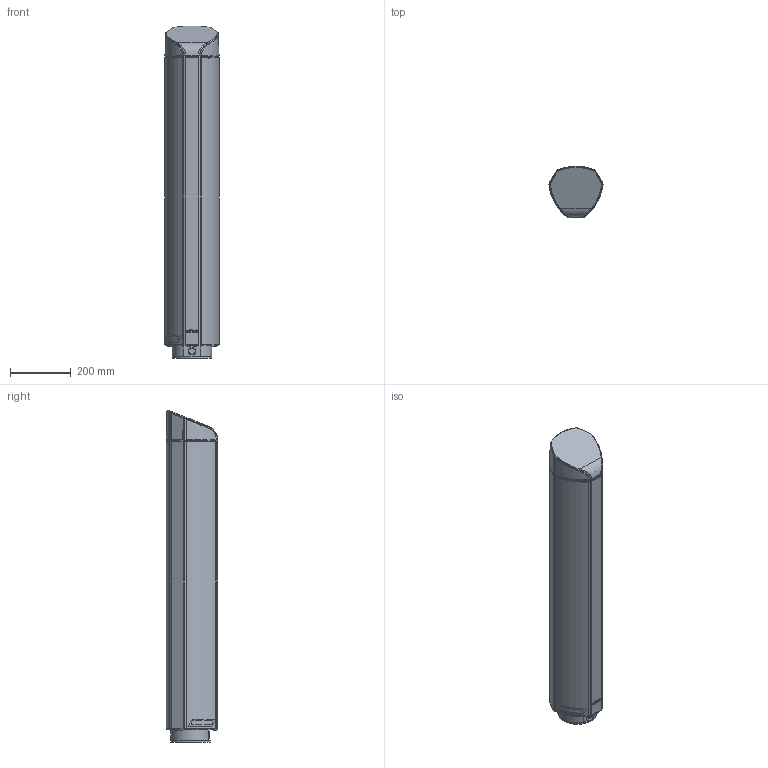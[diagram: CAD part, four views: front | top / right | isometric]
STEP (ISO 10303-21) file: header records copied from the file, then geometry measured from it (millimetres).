
FILE_DESCRIPTION(/* description */ ('Unknown'),/* implementation_level */ '2;1');
FILE_NAME(/* name */ '55870013_00',/* time_stamp */ '2023-03-13T11:10:37+01:00',/* author */ ('Unknown'),/* organization */ ('Unknown'),/* preprocessor_version */ 'ST-DEVELOPER v18.102',/* originating_system */ 'Solid Edge',/* authorisation */ 'Unknown');
FILE_SCHEMA (('AUTOMOTIVE_DESIGN {1 0 10303 214 3 1 1}'));
Products named in the file (48): 55870013; 10430647_oa_0; 35050007; 34840049; 20770007; 20180333; 20180333a; 20180333b; 34635030; 20410114; 20340394; 20580040; 35760048; 35160004; 34980004; 32220003; 35130011; 35165008; 20580038; 33305008; 20580039; 34745019; 20250074; 20250075; 20250118; 10450304; 20490306; 20250112; 20640126; 35000013; 20180574; 20370070; 33020022; 20180434-mSwing; 20180434-MAGNETIC-mSwing-1; 20180434-MAGNETIC-mSwing-2; 34900015; 20340465; 20580043; 35165002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
Assembly tree (107 placements, depth 4):
  55870013
    10430647_oa_0
      35050007  x2
      34840049  x4
      20770007  x2
      20180333
        20180333a
        20180333b
      34635030  x6
      20410114
      20340394
      20580040
      35760048
      35160004
      34980004  x2
      32220003
      35130011
      35165008  x4
      20580038  x3
      33305008  x4
      20580039  x3
      34745019
      20250074
      20250075
      20250118
    10450304
      20490306
      34980004  x2
      34745019  x7
      20250112
      20640126
      35000013  x3
      20180574
      20180333
        20180333a
        20180333b
      20370070  x2
      35050007  x2
      32220003
      33020022  x2
      20180434-mSwing
        20180434-MAGNETIC-mSwing-1
        20180434-MAGNETIC-mSwing-2
      34900015  x6
      20340465
      35130011
      20580043
      35160004
    35165002  x4
    31380045  x4
    33060023  x8
    10330029
      20690127
      20250130
      34630039  x3
      34590021
    20400450
Bounding box: 177.66 x 168.2 x 1091.22 mm (x, y, z)
Volume: 4524871.1 mm3; surface area: 1913333.8 mm2
Topology: 111 solids, 111 shells, 3964 faces, 10493 edges, 6755 vertices
Faces by surface type: plane 2212, cylinder 1091, bspline 370, cone 224, torus 40, sphere 27
Full cylindrical faces by diameter (mm): 2 x2, 2.5 x5, 3.242 x22, 4 x19, 4.2 x9, 4.3 x7, 4.4 x2, 4.5 x11, 4.773 x10, 4.917 x38, 5 x1, 5.5 x3, 6 x28, 6.5 x41, 6.6 x12, 6.647 x12, 7 x8, 8 x16, 8.4 x3, 8.7 x4, 9 x8, 10 x4, 11.599 x4, 12 x9, 13.5 x16, 13.6 x6, 14 x1, 15 x5, 16 x4, 20 x2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
Entity records: 84173 total; most frequent: CARTESIAN_POINT 20627, ORIENTED_EDGE 11020, DIRECTION 10321, EDGE_CURVE 5510, AXIS2_PLACEMENT_3D 3716, VERTEX_POINT 3676, LINE 2889, VECTOR 2889
